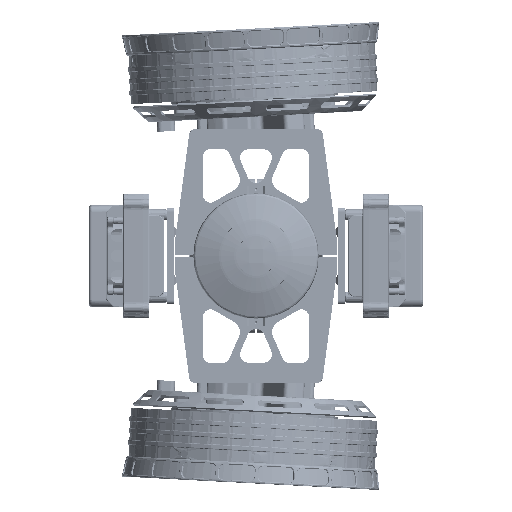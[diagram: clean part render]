
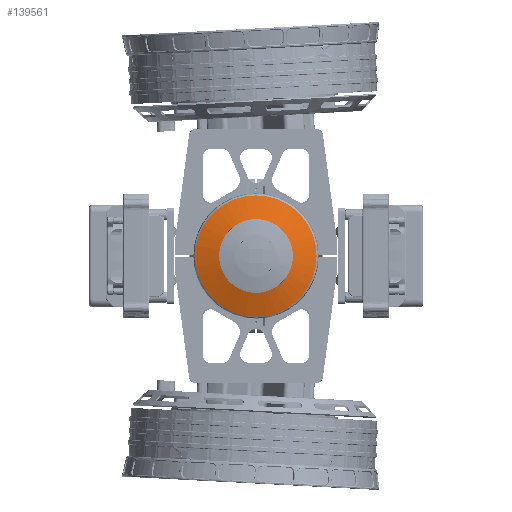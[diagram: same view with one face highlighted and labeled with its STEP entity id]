
A CAD part, front view. The second image highlights one B-rep face of the part: STEP entity #139561.
In plain terms, the highlighted free-form (B-spline) face has degree [3, 3] with [4, 4] control points.
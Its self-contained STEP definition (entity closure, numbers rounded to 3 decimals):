
#20399 = CARTESIAN_POINT ( 'NONE',  ( 38.751, 0.527, 42.041 ) ) ;
#24661 = DIRECTION ( 'NONE',  ( -1., 0., 0. ) ) ;
#27953 = CIRCLE ( 'NONE', #84249, 41.25 ) ;
#35641 = CARTESIAN_POINT ( 'NONE',  ( 0., -7.473, 0. ) ) ;
#50870 = CARTESIAN_POINT ( 'NONE',  ( -13.464, -9.918, -41.864 ) ) ;
#53379 = CARTESIAN_POINT ( 'NONE',  ( 15.187, -21.366, 14.825 ) ) ;
#55861 = CARTESIAN_POINT ( 'NONE',  ( 43.052, -9.903, -14.628 ) ) ;
#57312 = DIRECTION ( 'NONE',  ( 0., 1., 0. ) ) ;
#71967 = VERTEX_POINT ( 'NONE', #482599 ) ;
#74808 = CIRCLE ( 'NONE', #397510, 25.148 ) ;
#84249 = AXIS2_PLACEMENT_3D ( 'NONE', #35641, #151736, #161673 ) ;
#87170 = AXIS2_PLACEMENT_3D ( 'NONE', #416064, #188594, #24661 ) ;
#91280 = FACE_OUTER_BOUND ( 'NONE', #248153, .T. ) ;
#115399 = ORIENTED_EDGE ( 'NONE', *, *, #457374, .T. ) ;
#124103 = CARTESIAN_POINT ( 'NONE',  ( 38.779, 0.46, -41.864 ) ) ;
#129031 = CARTESIAN_POINT ( 'NONE',  ( 13.683, -9.889, -41.864 ) ) ;
#131564 = FACE_BOUND ( 'NONE', #221506, .T. ) ;
#132977 = CARTESIAN_POINT ( 'NONE',  ( 0., -12.587, 0. ) ) ;
#135744 = CIRCLE ( 'NONE', #87170, 41.25 ) ;
#136261 = CIRCLE ( 'NONE', #467418, 25.148 ) ;
#139561 = ADVANCED_FACE ( 'NONE', ( #131564, #91280 ), #245293, .T. ) ;
#145196 = EDGE_CURVE ( 'NONE', #71967, #288054, #74808, .T. ) ;
#151736 = DIRECTION ( 'NONE',  ( 0., -1., 0. ) ) ;
#161673 = DIRECTION ( 'NONE',  ( -1., 0., 0. ) ) ;
#169296 = CARTESIAN_POINT ( 'NONE',  ( 0., -12.587, 0. ) ) ;
#169536 = CARTESIAN_POINT ( 'NONE',  ( -14.947, -21.424, -14.628 ) ) ;
#170725 = ORIENTED_EDGE ( 'NONE', *, *, #441564, .T. ) ;
#181215 = EDGE_CURVE ( 'NONE', #288054, #71967, #136261, .T. ) ;
#188594 = DIRECTION ( 'NONE',  ( 0., -1., 0. ) ) ;
#197176 = CARTESIAN_POINT ( 'NONE',  ( 41.25, -7.473, 0. ) ) ;
#221506 = EDGE_LOOP ( 'NONE', ( #328510, #470635 ) ) ;
#245293 =( BOUNDED_SURFACE ( )  B_SPLINE_SURFACE ( 3, 3, ( 
 ( #475355, #245334, #366408, #20399 ),
 ( #437389, #470326, #53379, #326059 ),
 ( #401893, #169536, #399383, #55861 ),
 ( #480311, #50870, #129031, #124103 ) ),
 .UNSPECIFIED., .F., .F., .F. ) 
 B_SPLINE_SURFACE_WITH_KNOTS ( ( 4, 4 ),
 ( 4, 4 ),
 ( 0., 1. ),
 ( 0., 1. ),
 .UNSPECIFIED. ) 
 GEOMETRIC_REPRESENTATION_ITEM ( )  RATIONAL_B_SPLINE_SURFACE ( (
 ( 1., 0.95, 0.95, 1.),
 ( 0.95, 0.902, 0.902, 0.95),
 ( 0.95, 0.902, 0.902, 0.95),
 ( 1., 0.95, 0.95, 1.) ) ) 
 REPRESENTATION_ITEM ( '' )  SURFACE ( )  );
#245334 = CARTESIAN_POINT ( 'NONE',  ( -13.454, -9.843, 42.041 ) ) ;
#248153 = EDGE_LOOP ( 'NONE', ( #115399, #170725 ) ) ;
#280594 = VERTEX_POINT ( 'NONE', #197176 ) ;
#284407 = CARTESIAN_POINT ( 'NONE',  ( 25.148, -12.587, 0. ) ) ;
#288054 = VERTEX_POINT ( 'NONE', #284407 ) ;
#326059 = CARTESIAN_POINT ( 'NONE',  ( 43.042, -9.879, 14.825 ) ) ;
#328510 = ORIENTED_EDGE ( 'NONE', *, *, #181215, .T. ) ;
#365211 = VERTEX_POINT ( 'NONE', #462699 ) ;
#366408 = CARTESIAN_POINT ( 'NONE',  ( 13.673, -9.814, 42.041 ) ) ;
#397510 = AXIS2_PLACEMENT_3D ( 'NONE', #132977, #57312, #400833 ) ;
#399155 = DIRECTION ( 'NONE',  ( 1., 0., 0. ) ) ;
#399383 = CARTESIAN_POINT ( 'NONE',  ( 15.19, -21.392, -14.628 ) ) ;
#400833 = DIRECTION ( 'NONE',  ( 1., 0., 0. ) ) ;
#401893 = CARTESIAN_POINT ( 'NONE',  ( -42.833, -9.993, -14.628 ) ) ;
#416064 = CARTESIAN_POINT ( 'NONE',  ( 0., -7.473, 0. ) ) ;
#437389 = CARTESIAN_POINT ( 'NONE',  ( -42.823, -9.969, 14.825 ) ) ;
#441564 = EDGE_CURVE ( 'NONE', #280594, #365211, #27953, .T. ) ;
#457374 = EDGE_CURVE ( 'NONE', #365211, #280594, #135744, .T. ) ;
#462699 = CARTESIAN_POINT ( 'NONE',  ( -41.25, -7.473, 0. ) ) ;
#467418 = AXIS2_PLACEMENT_3D ( 'NONE', #169296, #482572, #399155 ) ;
#470326 = CARTESIAN_POINT ( 'NONE',  ( -14.944, -21.398, 14.825 ) ) ;
#470635 = ORIENTED_EDGE ( 'NONE', *, *, #145196, .T. ) ;
#475355 = CARTESIAN_POINT ( 'NONE',  ( -38.554, 0.446, 42.041 ) ) ;
#480311 = CARTESIAN_POINT ( 'NONE',  ( -38.582, 0.379, -41.864 ) ) ;
#482572 = DIRECTION ( 'NONE',  ( 0., 1., 0. ) ) ;
#482599 = CARTESIAN_POINT ( 'NONE',  ( -25.148, -12.587, 0. ) ) ;
